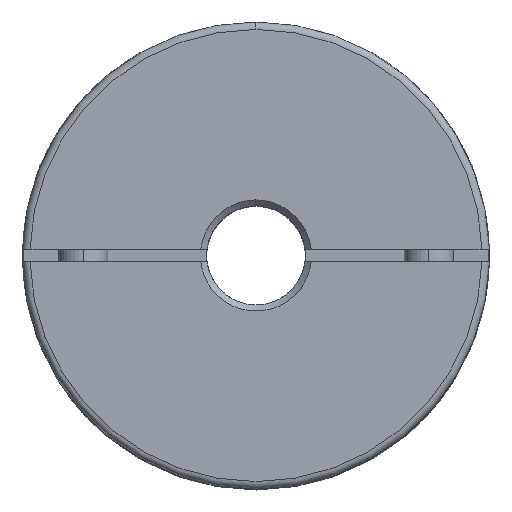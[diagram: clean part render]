
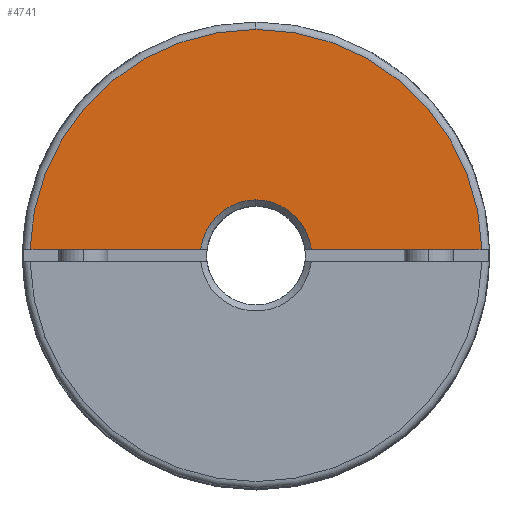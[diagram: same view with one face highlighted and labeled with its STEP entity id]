
A CAD part, top view. The second image highlights one B-rep face of the part: STEP entity #4741.
In plain terms, the highlighted planar face has unit normal (0, 0, 1).
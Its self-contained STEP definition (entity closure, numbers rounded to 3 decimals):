
#502 = LINE ( 'NONE', #4638, #504 ) ;
#503 = CIRCLE ( 'NONE', #6840, 4.5 ) ;
#504 = VECTOR ( 'NONE', #4653, 1000. ) ;
#505 = LINE ( 'NONE', #4694, #507 ) ;
#506 = CIRCLE ( 'NONE', #6841, 18.3 ) ;
#507 = VECTOR ( 'NONE', #4705, 1000. ) ;
#556 = CIRCLE ( 'NONE', #6865, 18.3 ) ;
#571 = CIRCLE ( 'NONE', #6868, 4.5 ) ;
#1012 = DIRECTION ( 'NONE',  ( 0., 1., 0. ) ) ;
#1015 = DIRECTION ( 'NONE',  ( 0., 0., 1. ) ) ;
#1017 = PLANE ( 'NONE',  #6562 ) ;
#1018 = CARTESIAN_POINT ( 'NONE',  ( 0., 0., 26.741 ) ) ;
#1120 = CARTESIAN_POINT ( 'NONE',  ( -18.293, 0.5, 26.741 ) ) ;
#1819 = ORIENTED_EDGE ( 'NONE', *, *, #6299, .T. ) ;
#1821 = ORIENTED_EDGE ( 'NONE', *, *, #6245, .T. ) ;
#1822 = ORIENTED_EDGE ( 'NONE', *, *, #6246, .T. ) ;
#1823 = ORIENTED_EDGE ( 'NONE', *, *, #6247, .T. ) ;
#1825 = ORIENTED_EDGE ( 'NONE', *, *, #6303, .T. ) ;
#1832 = ORIENTED_EDGE ( 'NONE', *, *, #6244, .T. ) ;
#2131 = EDGE_LOOP ( 'NONE', ( #1819, #1823, #1822, #1825, #1821, #1832 ) ) ;
#3500 = DIRECTION ( 'NONE',  ( 0., 1., 0. ) ) ;
#3502 = DIRECTION ( 'NONE',  ( 0., 0., 1. ) ) ;
#3503 = CARTESIAN_POINT ( 'NONE',  ( 0., 0., 26.741 ) ) ;
#3516 = VERTEX_POINT ( 'NONE', #1120 ) ;
#4149 = CARTESIAN_POINT ( 'NONE',  ( 4.472, 0.5, 26.741 ) ) ;
#4166 = CARTESIAN_POINT ( 'NONE',  ( 18.293, 0.5, 26.741 ) ) ;
#4193 = CARTESIAN_POINT ( 'NONE',  ( 0., 4.5, 26.741 ) ) ;
#4246 = CARTESIAN_POINT ( 'NONE',  ( 0., 18.3, 26.741 ) ) ;
#4379 = CARTESIAN_POINT ( 'NONE',  ( -4.472, 0.5, 26.741 ) ) ;
#4638 = CARTESIAN_POINT ( 'NONE',  ( -18.9, 0.5, 26.741 ) ) ;
#4653 = DIRECTION ( 'NONE',  ( 1., 0., 0. ) ) ;
#4694 = CARTESIAN_POINT ( 'NONE',  ( -18.9, 0.5, 26.741 ) ) ;
#4699 = DIRECTION ( 'NONE',  ( 0., 1., 0. ) ) ;
#4700 = DIRECTION ( 'NONE',  ( 0., 0., 1. ) ) ;
#4701 = CARTESIAN_POINT ( 'NONE',  ( 0., 0., 26.741 ) ) ;
#4705 = DIRECTION ( 'NONE',  ( 1., 0., 0. ) ) ;
#4706 = DIRECTION ( 'NONE',  ( 0., 1., 0. ) ) ;
#4707 = DIRECTION ( 'NONE',  ( 0., 0., -1. ) ) ;
#4708 = CARTESIAN_POINT ( 'NONE',  ( 0., 0., 26.741 ) ) ;
#4741 = ADVANCED_FACE ( 'NONE', ( #5668 ), #1017, .T. ) ;
#5027 = VERTEX_POINT ( 'NONE', #4379 ) ;
#5248 = VERTEX_POINT ( 'NONE', #4246 ) ;
#5420 = VERTEX_POINT ( 'NONE', #4193 ) ;
#5465 = VERTEX_POINT ( 'NONE', #4166 ) ;
#5642 = VERTEX_POINT ( 'NONE', #4149 ) ;
#5668 = FACE_OUTER_BOUND ( 'NONE', #2131, .T. ) ;
#6244 = EDGE_CURVE ( 'NONE', #5642, #5465, #502, .T. ) ;
#6245 = EDGE_CURVE ( 'NONE', #5420, #5642, #503, .T. ) ;
#6246 = EDGE_CURVE ( 'NONE', #3516, #5027, #505, .T. ) ;
#6247 = EDGE_CURVE ( 'NONE', #5248, #3516, #506, .T. ) ;
#6299 = EDGE_CURVE ( 'NONE', #5465, #5248, #556, .T. ) ;
#6303 = EDGE_CURVE ( 'NONE', #5027, #5420, #571, .T. ) ;
#6562 = AXIS2_PLACEMENT_3D ( 'NONE', #1018, #1015, #1012 ) ;
#6840 = AXIS2_PLACEMENT_3D ( 'NONE', #4708, #4707, #4706 ) ;
#6841 = AXIS2_PLACEMENT_3D ( 'NONE', #4701, #4700, #4699 ) ;
#6865 = AXIS2_PLACEMENT_3D ( 'NONE', #3503, #3502, #3500 ) ;
#6868 = AXIS2_PLACEMENT_3D ( 'NONE', #7022, #7020, #7011 ) ;
#7011 = DIRECTION ( 'NONE',  ( 0., 1., 0. ) ) ;
#7020 = DIRECTION ( 'NONE',  ( 0., 0., -1. ) ) ;
#7022 = CARTESIAN_POINT ( 'NONE',  ( 0., 0., 26.741 ) ) ;
